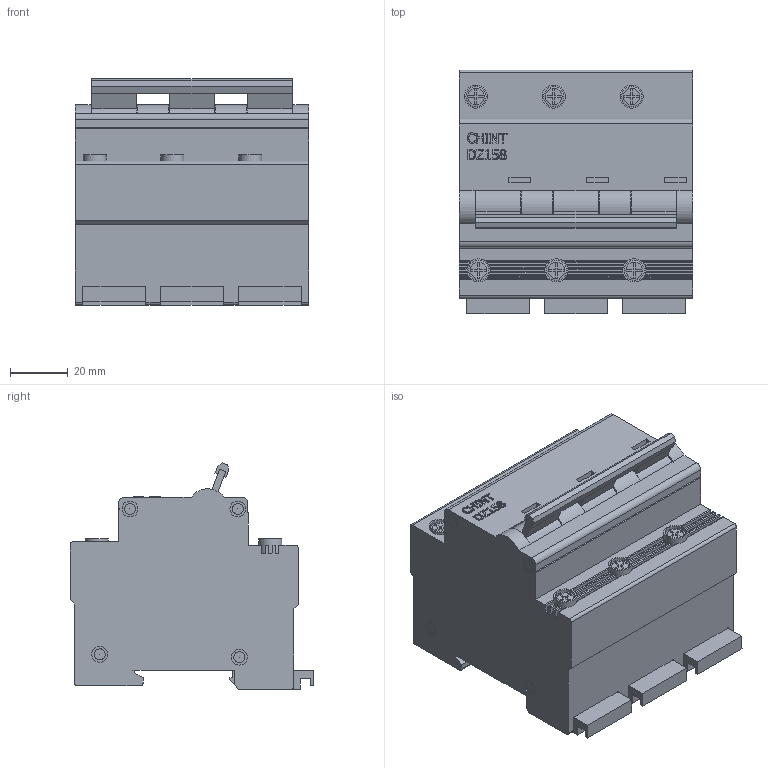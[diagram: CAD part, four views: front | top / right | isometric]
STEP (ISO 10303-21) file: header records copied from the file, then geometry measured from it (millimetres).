
FILE_DESCRIPTION(/* description */ (''),/* implementation_level */ '2;1');
FILE_NAME(/* name */ 'D:\CHINT\DZ158\Авт. выкл. DZ158 3P 63A 10kA х-ка (8-12In) (R) (CHINT).stp',/* time_stamp */ '2017-09-24T18:56:42+04:00',/* author */ ('RSagdiev'),/* organization */ (''),/* preprocessor_version */ 'ST-DEVELOPER v16.5',/* originating_system */ 'Autodesk Inventor 2017',/* authorisation */ '');
FILE_SCHEMA (('AUTOMOTIVE_DESIGN { 1 0 10303 214 3 1 1 }'));
Length unit declared in the file: millimetre
Products named in the file (1): Авт. выкл. DZ158 3P 63A 10kA \X2\0445
\X0\-ка (8-12In) (R) (CHINT)
Bounding box: 81 x 84.5 x 78.49 mm (x, y, z)
Volume: 359625.7 mm3; surface area: 48301.2 mm2
Topology: 14 solids, 14 shells, 625 faces, 1608 edges, 1060 vertices
Faces by surface type: plane 406, cylinder 156, bspline 57, torus 6
Full cylindrical faces by diameter (mm): 0.001 x13, 3.794 x18, 5.491 x16, 7 x6, 8 x6
Entity records: 19622 total; most frequent: CARTESIAN_POINT 4811, ORIENTED_EDGE 3068, DIRECTION 2789, EDGE_CURVE 1534, VERTEX_POINT 1051, LINE 1045, VECTOR 1045, AXIS2_PLACEMENT_3D 872
